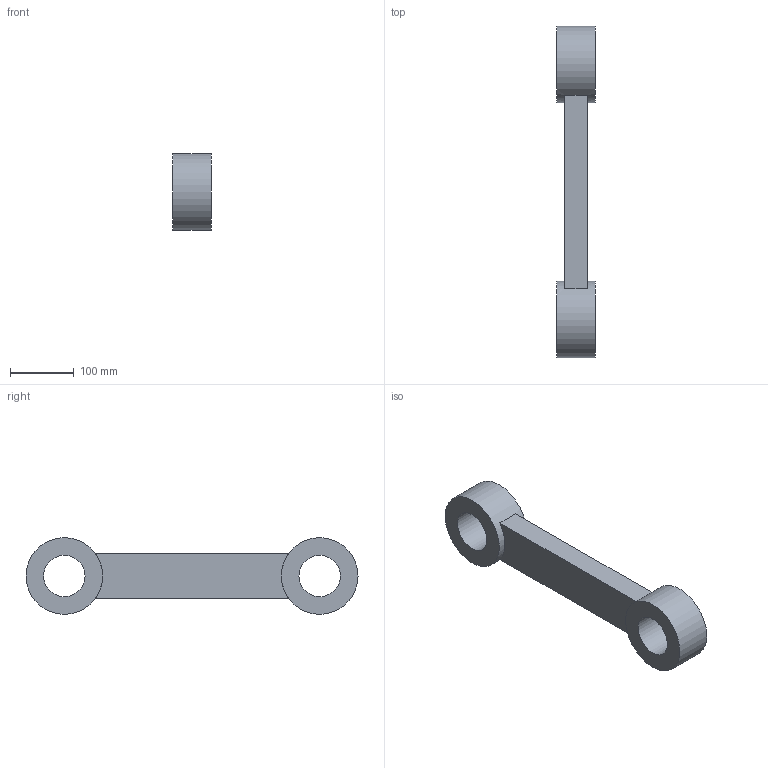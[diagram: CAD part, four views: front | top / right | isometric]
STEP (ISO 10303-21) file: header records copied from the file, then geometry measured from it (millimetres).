
FILE_DESCRIPTION(('Open CASCADE Model'),'2;1');
FILE_NAME('Open CASCADE Shape Model','2026-09-19T12:55:25',('Author'),( 'Open CASCADE'),'Open CASCADE STEP processor 7.9','Open CASCADE 7.9' ,'Unknown');
FILE_SCHEMA(('AUTOMOTIVE_DESIGN { 1 0 10303 214 1 1 1 1 }'));
Length unit declared in the file: millimetre
Products named in the file (1): Open CASCADE STEP translator 7.9 470
Bounding box: 60 x 520 x 120 mm (x, y, z)
Volume: 1662620.6 mm3; surface area: 157863.1 mm2
Topology: 1 solids, 1 shells, 12 faces, 24 edges, 16 vertices
Faces by surface type: plane 8, cylinder 4
Full cylindrical faces by diameter (mm): 65 x2, 120 x2
Entity records: 642 total; most frequent: CARTESIAN_POINT 109, DIRECTION 102, ORIENTED_EDGE 48, PCURVE 48, DEFINITIONAL_REPRESENTATION 48, LINE 40, VECTOR 40, AXIS2_PLACEMENT_3D 25
